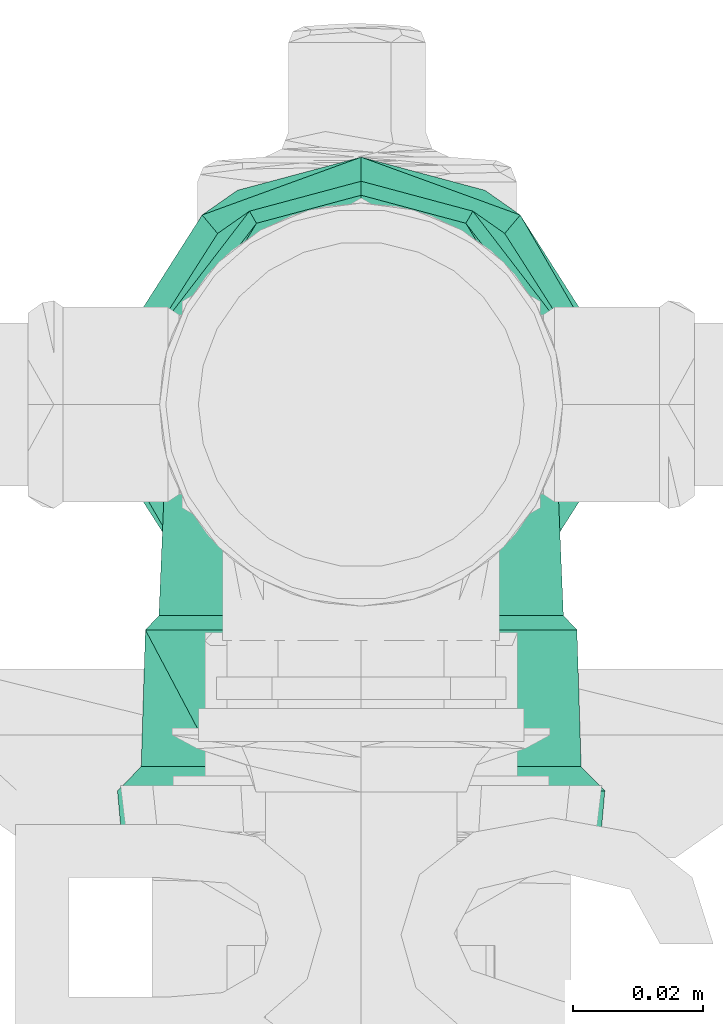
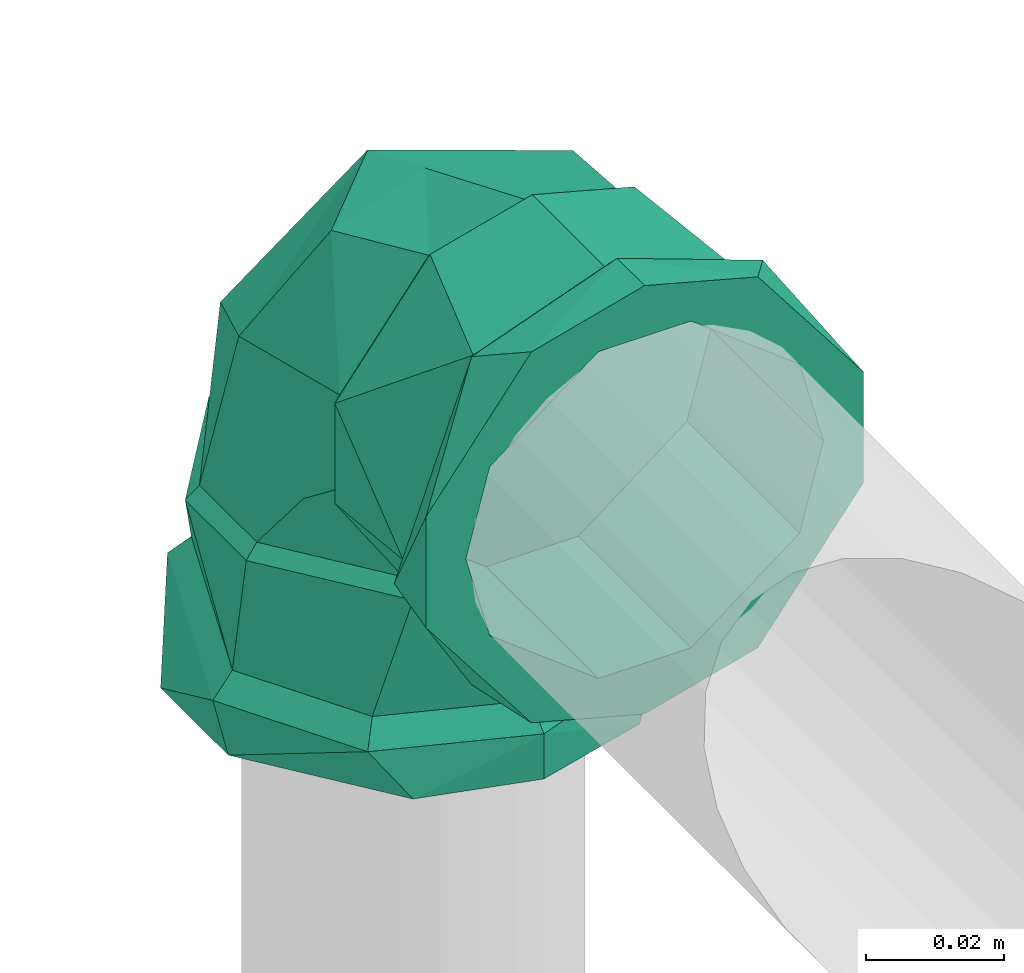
# One storey, part 293 of 589: 1 flow fitting.
"""IFC2X3 building model written with IfcOpenShell, lengths in millimetres."""

from ifc_helpers import new_model, entity, si_unit, converted_unit, derived_unit, direction, frame, origin, place, context, subcontext, project, spatial, faceted_brep, source, transform, mapped, material, type_object, type_shapes, element, save


model = new_model("IFC2X3")

# Units and contexts
model_context = context("Model", 3, precision=0.01, world=origin(), true_north=direction((6.123031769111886e-17, 1.0)))
body_context = subcontext(model_context, "Body", "Model", "MODEL_VIEW")
ifc_project = project(units=[si_unit("LENGTHUNIT", "METRE", prefix="MILLI"), si_unit("AREAUNIT", "SQUARE_METRE"), si_unit("VOLUMEUNIT", "CUBIC_METRE"), converted_unit("PLANEANGLEUNIT", "DEGREE", entity("IfcRatioMeasure", 0.017453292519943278), si_unit("PLANEANGLEUNIT", "RADIAN"), dimensions=[0, 0, 0, 0, 0, 0, 0]), si_unit("MASSUNIT", "GRAM", prefix="KILO"), derived_unit("MASSDENSITYUNIT", [(si_unit("MASSUNIT", "GRAM", prefix="KILO"), 1), (si_unit("LENGTHUNIT", "METRE"), -3)]), derived_unit("IONCONCENTRATIONUNIT", [(si_unit("MASSUNIT", "GRAM", prefix="KILO"), 1), (si_unit("LENGTHUNIT", "METRE"), -3)]), derived_unit("MOMENTOFINERTIAUNIT", [(si_unit("LENGTHUNIT", "METRE"), 4)]), si_unit("TIMEUNIT", "SECOND"), si_unit("FREQUENCYUNIT", "HERTZ"), si_unit("THERMODYNAMICTEMPERATUREUNIT", "DEGREE_CELSIUS"), derived_unit("THERMALTRANSMITTANCEUNIT", [(si_unit("MASSUNIT", "GRAM", prefix="KILO"), 1), (si_unit("THERMODYNAMICTEMPERATUREUNIT", "KELVIN"), -1), (si_unit("TIMEUNIT", "SECOND"), -3)]), derived_unit("THERMALCONDUCTANCEUNIT", [(si_unit("MASSUNIT", "GRAM", prefix="KILO"), 1), (si_unit("THERMODYNAMICTEMPERATUREUNIT", "KELVIN"), -1), (si_unit("TIMEUNIT", "SECOND"), -3), (si_unit("LENGTHUNIT", "METRE"), 1)]), derived_unit("VOLUMETRICFLOWRATEUNIT", [(si_unit("LENGTHUNIT", "METRE"), 3), (si_unit("TIMEUNIT", "SECOND"), -1)]), derived_unit("MASSFLOWRATEUNIT", [(si_unit("MASSUNIT", "GRAM", prefix="KILO"), 1), (si_unit("TIMEUNIT", "SECOND"), -1)]), derived_unit("ROTATIONALFREQUENCYUNIT", [(si_unit("TIMEUNIT", "SECOND"), -1)]), si_unit("ELECTRICCURRENTUNIT", "AMPERE"), si_unit("ELECTRICVOLTAGEUNIT", "VOLT"), si_unit("POWERUNIT", "WATT"), si_unit("FORCEUNIT", "NEWTON", prefix="KILO"), si_unit("ILLUMINANCEUNIT", "LUX"), si_unit("LUMINOUSFLUXUNIT", "LUMEN"), si_unit("LUMINOUSINTENSITYUNIT", "CANDELA"), derived_unit("USERDEFINED", [(si_unit("MASSUNIT", "GRAM", prefix="KILO"), -1), (si_unit("LENGTHUNIT", "METRE"), -2), (si_unit("TIMEUNIT", "SECOND"), 3), (si_unit("LUMINOUSFLUXUNIT", "LUMEN"), 1)]), derived_unit("USERDEFINED", [(si_unit("MASSUNIT", "GRAM", prefix="KILO"), 1), (si_unit("TIMEUNIT", "SECOND"), -3), (si_unit("LENGTHUNIT", "METRE"), 3), (si_unit("ELECTRICCURRENTUNIT", "AMPERE"), -2)]), derived_unit("SOUNDPOWERUNIT", [(si_unit("MASSUNIT", "GRAM", prefix="KILO"), 1), (si_unit("TIMEUNIT", "SECOND"), -3), (si_unit("LENGTHUNIT", "METRE"), 2)]), derived_unit("SOUNDPRESSUREUNIT", [(si_unit("MASSUNIT", "GRAM", prefix="KILO"), 1), (si_unit("LENGTHUNIT", "METRE"), -1), (si_unit("TIMEUNIT", "SECOND"), -2)]), derived_unit("LINEARVELOCITYUNIT", [(si_unit("LENGTHUNIT", "METRE"), 1), (si_unit("TIMEUNIT", "SECOND"), -1)]), si_unit("PRESSUREUNIT", "PASCAL"), derived_unit("USERDEFINED", [(si_unit("MASSUNIT", "GRAM", prefix="KILO"), 1), (si_unit("LENGTHUNIT", "METRE"), -2), (si_unit("TIMEUNIT", "SECOND"), -2)]), derived_unit("LINEARFORCEUNIT", [(si_unit("MASSUNIT", "GRAM", prefix="KILO"), 1), (si_unit("TIMEUNIT", "SECOND"), -2)]), derived_unit("PLANARFORCEUNIT", [(si_unit("MASSUNIT", "GRAM", prefix="KILO"), 1), (si_unit("LENGTHUNIT", "METRE"), -1), (si_unit("TIMEUNIT", "SECOND"), -2)]), derived_unit("SPECIFICHEATCAPACITYUNIT", [(si_unit("THERMODYNAMICTEMPERATUREUNIT", "KELVIN"), -1), (si_unit("LENGTHUNIT", "METRE"), 2), (si_unit("TIMEUNIT", "SECOND"), -2)]), derived_unit("HEATINGVALUEUNIT", [(si_unit("LENGTHUNIT", "METRE"), 2), (si_unit("TIMEUNIT", "SECOND"), -2)]), derived_unit("VAPORPERMEABILITYUNIT", [(si_unit("LENGTHUNIT", "METRE"), -1), (si_unit("TIMEUNIT", "SECOND"), 1)]), derived_unit("DYNAMICVISCOSITYUNIT", [(si_unit("MASSUNIT", "GRAM", prefix="KILO"), 1), (si_unit("TIMEUNIT", "SECOND"), -1), (si_unit("LENGTHUNIT", "METRE"), -1)]), derived_unit("THERMALEXPANSIONCOEFFICIENTUNIT", [(si_unit("THERMODYNAMICTEMPERATUREUNIT", "KELVIN"), -1)]), derived_unit("MODULUSOFELASTICITYUNIT", [(si_unit("MASSUNIT", "GRAM", prefix="KILO"), 1), (si_unit("LENGTHUNIT", "METRE"), -1), (si_unit("TIMEUNIT", "SECOND"), -2)]), derived_unit("ISOTHERMALMOISTURECAPACITYUNIT", [(si_unit("LENGTHUNIT", "METRE"), 3), (si_unit("MASSUNIT", "GRAM", prefix="KILO"), -1)]), derived_unit("MOISTUREDIFFUSIVITYUNIT", [(si_unit("TIMEUNIT", "SECOND"), -1), (si_unit("LENGTHUNIT", "METRE"), 2)])], contexts=[model_context])

# Site, building, storey
site_placement = place(None, origin())
site = spatial("IfcSite", under=ifc_project, at=site_placement, Name="Default", CompositionType="ELEMENT")
building_placement = place(site_placement, origin())
building = spatial("IfcBuilding", under=site, at=building_placement, CompositionType="ELEMENT")
storey_placement = place(building_placement, frame((0.0, 0.0, 100.0)))
storey = spatial("IfcBuildingStorey", under=building, at=storey_placement, Name="TÉRREO", CompositionType="ELEMENT", Elevation=100.0)

# Flow fitting
ifc_material = material(Name="PVC Marrom")
pipe_fitting_type = type_object("IfcPipeFittingType", Name="PVC Marrom Soldável_Joelho 45°_90°_Rodrigo MEP:Joelho", PredefinedType="NOTDEFINED", material=ifc_material)
shared_shape = source(origin(), body_context, "Body", "Brep", [
    faceted_brep([(-29.704671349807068, 34.60000000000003, 17.149999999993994), (-19.29108229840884, 34.600000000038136, 25.14062792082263), (-8.877493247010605, 34.60000000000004, 33.13125584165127), (8.877493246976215, 34.60000000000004, 33.13125584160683), (19.291082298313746, 34.60000000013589, 25.140627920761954), (29.70467134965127, 34.600000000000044, 17.149999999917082), (34.29999999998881, 34.600000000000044, 0.0), (29.7046713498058, 34.600000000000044, -17.150000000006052), (19.29108229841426, 34.599999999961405, -25.140627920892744), (8.877493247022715, 34.60000000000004, -33.13125584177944), (-8.877493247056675, 34.60000000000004, -33.13125584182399), (-19.291082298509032, 34.599999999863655, -25.140627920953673), (-29.704671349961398, 34.60000000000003, -17.150000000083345), (-34.30000000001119, 34.60000000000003, 0.0), (8.321032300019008, 32.400000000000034, 31.054515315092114), (-8.32103230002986, 32.400000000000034, 31.054515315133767), (-18.08187451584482, 32.40000000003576, 23.56475765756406), (-27.84271673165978, 32.40000000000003, 16.07499999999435), (-32.15000000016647, 32.40000000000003, 0.0), (-27.842716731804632, 32.40000000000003, -16.075000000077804), (-18.08187451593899, 32.399999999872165, -23.564757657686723), (-8.32103230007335, 32.400000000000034, -31.054515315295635), (8.32103230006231, 32.400000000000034, -31.054515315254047), (18.081874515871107, 32.399999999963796, -23.56475765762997), (27.8427167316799, 32.40000000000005, -16.07500000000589), (32.14999999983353, 32.40000000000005, 0.0), (27.84271673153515, 32.40000000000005, 16.074999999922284), (18.08187451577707, 32.400000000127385, 23.564757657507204)], [[[0, 1, 2, 3, 4, 5, 6, 7, 8, 9, 10, 11, 12, 13]], [[14, 15, 16, 17, 18, 19, 20, 21, 22, 23, 24, 25, 26, 27]], [[7, 25, 24]], [[9, 8, 7, 24, 23, 22]], [[20, 19, 12, 11, 10, 21]], [[7, 6, 25]], [[22, 21, 10, 9]], [[13, 19, 18]], [[13, 12, 19]], [[0, 18, 17]], [[2, 1, 0, 17, 16, 15]], [[27, 26, 5, 4, 3, 14]], [[0, 13, 18]], [[15, 14, 3, 2]], [[6, 26, 25]], [[6, 5, 26]]]),
    faceted_brep([(-34.599999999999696, -8.877493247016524, 33.13125584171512), (-34.599999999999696, 8.877493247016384, 33.13125584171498), (-34.59999999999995, 19.291082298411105, 25.140627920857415), (-34.599999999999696, 29.704671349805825, 17.14999999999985), (-34.599999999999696, 34.3, 0.0), (-34.599999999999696, 29.704671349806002, -17.149999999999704), (-34.60000000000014, 19.29108229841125, -25.140627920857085), (-34.599999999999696, 8.877493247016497, -33.13125584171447), (-34.599999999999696, -8.877493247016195, -33.131255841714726), (-34.59999999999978, -19.291082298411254, -25.1406279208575), (-34.599999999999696, -29.704671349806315, -17.150000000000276), (-34.599999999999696, -34.3, 0.0), (-34.599999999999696, -29.704671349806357, 17.15000000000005), (-34.59999999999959, -19.291082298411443, 25.14062792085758), (-32.3999999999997, 32.149999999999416, 0.0), (-32.3999999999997, 27.84271673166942, 16.074999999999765), (-32.39999999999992, 18.081874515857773, 23.564757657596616), (-32.3999999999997, 8.321032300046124, 31.054515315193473), (-32.3999999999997, -8.321032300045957, 31.05451531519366), (-32.39999999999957, -18.08187451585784, 23.564757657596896), (-32.3999999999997, -27.84271673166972, 16.075000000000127), (-32.3999999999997, -32.15000000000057, 0.0), (-32.3999999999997, -27.842716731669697, -16.07500000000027), (-32.39999999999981, -18.08187451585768, -23.56475765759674), (-32.3999999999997, -8.321032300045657, -31.054515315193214), (-32.3999999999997, 8.321032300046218, -31.05451531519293), (-32.40000000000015, 18.081874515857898, -23.56475765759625), (-32.3999999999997, 27.842716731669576, -16.074999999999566)], [[[0, 1, 2, 3, 4, 5, 6, 7, 8, 9, 10, 11, 12, 13]], [[14, 15, 16, 17, 18, 19, 20, 21, 22, 23, 24, 25, 26, 27]], [[5, 4, 14, 27]], [[7, 6, 5, 27, 26, 25]], [[23, 22, 10, 9, 8, 24]], [[25, 24, 8, 7]], [[11, 10, 22, 21]], [[12, 11, 21, 20]], [[0, 13, 12, 20, 19, 18]], [[16, 15, 3, 2, 1, 17]], [[18, 17, 1, 0]], [[4, 3, 15, 14]]]),
    faceted_brep([(-67.29999999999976, -9.835123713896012, -36.70518139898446), (-67.29999999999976, 0.0, -30.0), (-67.29999999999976, 9.835123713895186, -36.705181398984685), (-67.29999999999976, -15.0, -25.98076211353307), (-67.29999999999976, -32.90896534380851, -19.0), (-67.29999999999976, -28.977774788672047, -7.764571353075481), (-67.29999999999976, -38.0, 0.0), (-67.29999999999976, -28.97777478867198, 7.764571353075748), (-67.29999999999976, -32.90896534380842, 19.0), (-67.29999999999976, -15.0, 25.98076211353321), (-67.29999999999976, -9.835123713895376, 36.70518139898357), (-67.29999999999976, 0.0, 30.0), (-67.29999999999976, 9.835123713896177, 36.70518139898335), (-67.29999999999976, 15.0, 25.980762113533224), (-67.29999999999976, 32.90896534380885, 19.0), (-67.29999999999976, 28.977774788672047, 7.764571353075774), (-67.29999999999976, 38.0, 0.0), (-67.29999999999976, 28.977774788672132, -7.764571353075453), (-67.29999999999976, 32.90896534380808, -19.0), (-67.29999999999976, 15.0, -25.980762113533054), (-59.29999999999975, 38.0, 0.0), (-59.30000000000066, 29.109098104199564, 24.426633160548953), (-59.30000000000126, 6.596820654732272, 37.42301373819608), (-59.30000000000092, -29.111756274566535, 24.42346508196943), (-59.29999999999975, -38.0, 0.0), (-59.29999999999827, -29.111756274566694, -24.423465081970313), (-59.29999999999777, -6.600893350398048, -37.42229558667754), (-59.29999999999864, 29.109098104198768, -24.426633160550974), (-55.60000000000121, -26.279625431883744, 22.042488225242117), (-55.60000000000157, 5.952366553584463, 33.779569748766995), (-55.59999999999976, -34.3, 0.0), (-55.60000000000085, 26.274095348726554, 22.049079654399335), (-55.59999999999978, 34.299999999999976, 0.0), (-55.59999999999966, 26.27409534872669, -22.04907965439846), (-55.59999999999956, -5.960839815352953, -33.77807556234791), (-55.59999999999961, -26.279625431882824, -22.042488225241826), (-34.59999999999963, -15.0, -25.98076211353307), (-34.59999999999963, -8.877493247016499, -33.13125584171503), (-34.59999999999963, 0.0, -30.0), (-34.59999999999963, -29.704671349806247, -17.149999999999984), (-34.59999999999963, -28.977774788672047, -7.764571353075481), (-34.59999999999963, -34.3, 0.0), (-34.59999999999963, -28.97777478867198, 7.764571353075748), (-34.59999999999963, -29.70467134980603, 17.150000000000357), (-34.59999999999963, -15.0, 25.98076211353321), (-34.59999999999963, -8.877493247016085, 33.13125584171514), (-34.59999999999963, 0.0, 30.0), (-34.59999999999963, 8.877493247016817, 33.131255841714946), (-34.59999999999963, 15.0, 25.980762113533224), (-34.59999999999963, 29.70467134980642, 17.1499999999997), (-34.59999999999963, 28.977774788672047, 7.764571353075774), (-34.59999999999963, 34.300000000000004, 0.0), (-34.59999999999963, 28.977774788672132, -7.764571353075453), (-34.59999999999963, 29.704671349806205, -17.150000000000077), (-34.59999999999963, 15.0, -25.980762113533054), (-34.59999999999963, 8.877493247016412, -33.13125584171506)], [[[0, 1, 2]], [[1, 0, 3]], [[4, 3, 0]], [[3, 4, 5]], [[5, 4, 6]], [[7, 5, 6]], [[7, 6, 8]], [[8, 9, 7]], [[8, 10, 9]], [[9, 10, 11]], [[12, 11, 10]], [[13, 11, 12]], [[13, 12, 14]], [[14, 15, 13]], [[15, 14, 16]], [[15, 16, 17]], [[18, 17, 16]], [[2, 19, 18]], [[17, 18, 19]], [[19, 2, 1]], [[16, 14, 20]], [[14, 21, 20]], [[21, 14, 12]], [[21, 12, 22]], [[23, 10, 8]], [[24, 8, 6]], [[10, 23, 22]], [[23, 8, 24]], [[10, 22, 12]], [[6, 4, 24]], [[4, 25, 24]], [[25, 4, 0]], [[25, 0, 26]], [[27, 2, 18]], [[20, 18, 16]], [[2, 27, 26]], [[27, 18, 20]], [[2, 26, 0]], [[28, 29, 23]], [[30, 28, 24]], [[24, 28, 23]], [[29, 22, 23]], [[31, 32, 21]], [[21, 22, 31]], [[20, 21, 32]], [[31, 22, 29]], [[32, 33, 27]], [[27, 20, 32]], [[26, 27, 33]], [[33, 34, 26]], [[35, 30, 24]], [[35, 25, 34]], [[25, 35, 24]], [[34, 25, 26]], [[36, 37, 38]], [[39, 37, 36]], [[36, 40, 39]], [[40, 41, 39]], [[42, 41, 40]], [[41, 42, 43]], [[44, 43, 42]], [[43, 44, 45]], [[46, 45, 44]], [[47, 45, 46]], [[48, 47, 46]], [[47, 48, 49]], [[50, 49, 48]], [[49, 50, 51]], [[51, 50, 52]], [[51, 52, 53]], [[53, 52, 54]], [[54, 38, 55]], [[55, 53, 54]], [[37, 55, 38]], [[32, 31, 49]], [[32, 49, 51]], [[49, 31, 47]], [[31, 29, 47]], [[45, 29, 28]], [[43, 28, 30]], [[28, 43, 45]], [[43, 30, 41]], [[29, 45, 47]], [[30, 35, 39]], [[30, 39, 41]], [[39, 35, 37]], [[35, 34, 37]], [[55, 34, 33]], [[53, 33, 32]], [[33, 53, 55]], [[53, 32, 51]], [[34, 55, 37]], [[9, 11, 46, 44]], [[7, 9, 44, 42]], [[42, 40, 5, 7]], [[3, 5, 40, 36]], [[1, 3, 36, 38]], [[19, 1, 38, 54]], [[17, 19, 54, 52]], [[52, 50, 15, 17]], [[13, 15, 50, 48]], [[11, 13, 48, 46]]]),
    faceted_brep([(-32.399999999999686, -8.32103230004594, -31.054515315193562), (-32.39999999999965, -27.84271673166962, -16.075000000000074), (-32.39999999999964, -32.149999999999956, 0.0), (-32.39999999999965, -27.842716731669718, 16.074999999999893), (-32.399999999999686, -8.321032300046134, 31.054515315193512), (-32.39999999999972, 8.321032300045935, 31.054515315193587), (-32.39999999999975, 27.842716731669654, 16.075000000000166), (-32.399999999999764, 32.15000000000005, 0.0), (-32.39999999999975, 27.842716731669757, -16.074999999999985), (-32.39999999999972, 8.32103230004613, -31.054515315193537), (-8.321032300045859, 32.39999999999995, -31.054515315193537), (-27.842716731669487, 32.40000000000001, -16.074999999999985), (-32.14999999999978, 32.40000000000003, 0.0), (-27.842716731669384, 32.40000000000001, 16.075000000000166), (-8.321032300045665, 32.39999999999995, 31.054515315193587), (8.321032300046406, 32.3999999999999, 31.054515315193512), (27.842716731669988, 32.399999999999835, 16.074999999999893), (32.150000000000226, 32.39999999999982, 0.0), (27.84271673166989, 32.399999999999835, -16.075000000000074), (8.32103230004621, 32.3999999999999, -31.054515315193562), (-0.8536947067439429, 0.8536917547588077, 29.73987024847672), (-11.305135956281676, -20.93489151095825, 20.269855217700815), (-3.4548297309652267, -20.160517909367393, 0.0), (13.243742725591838, -13.243742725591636, 0.0), (20.93489020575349, 11.305132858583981, 20.26985530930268), (-32.22322330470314, 32.2232233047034, 0.0), (-18.88266617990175, 18.88266585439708, 29.27743828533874), (20.160517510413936, 3.4548287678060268, 0.0), (-11.305135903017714, -20.9348914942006, -20.269855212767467), (-18.88266604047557, 18.882665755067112, -29.277438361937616), (-0.8536944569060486, 0.853691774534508, -29.739870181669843), (20.93489014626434, 11.305132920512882, -20.269855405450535)], [[[0, 1, 2, 3, 4, 5, 6, 7, 8, 9]], [[10, 11, 12, 13, 14, 15, 16, 17, 18, 19]], [[4, 20, 5]], [[21, 3, 22]], [[23, 21, 22]], [[15, 20, 24]], [[21, 4, 3]], [[25, 6, 13]], [[23, 24, 20]], [[25, 7, 6]], [[6, 5, 26]], [[3, 2, 22]], [[20, 21, 23]], [[27, 17, 16]], [[20, 26, 5]], [[20, 4, 21]], [[24, 27, 16]], [[6, 26, 13]], [[25, 13, 12]], [[24, 16, 15]], [[20, 14, 26]], [[14, 13, 26]], [[24, 23, 27]], [[14, 20, 15]], [[28, 23, 22]], [[28, 1, 0]], [[29, 8, 11]], [[29, 30, 9]], [[2, 1, 22]], [[30, 19, 31]], [[1, 28, 22]], [[30, 0, 9]], [[23, 28, 30]], [[30, 29, 10]], [[8, 7, 25]], [[25, 12, 11]], [[23, 31, 27]], [[0, 30, 28]], [[11, 10, 29]], [[30, 10, 19]], [[18, 17, 27]], [[23, 30, 31]], [[8, 29, 9]], [[31, 19, 18]], [[18, 27, 31]], [[11, 8, 25]]]),
    faceted_brep([(-15.0, 34.60000000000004, -25.98076211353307), (-8.877493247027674, 34.60000000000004, -33.13125584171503), (0.0, 34.600000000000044, -30.0), (-29.704671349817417, 34.60000000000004, -17.149999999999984), (-28.977774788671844, 34.60000000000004, -7.764571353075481), (-34.30000000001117, 34.60000000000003, 0.0), (-28.977774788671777, 34.60000000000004, 7.764571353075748), (-29.704671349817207, 34.60000000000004, 17.150000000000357), (-15.0, 34.60000000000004, 25.980762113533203), (-8.87749324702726, 34.60000000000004, 33.13125584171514), (0.0, 34.600000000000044, 30.0), (8.877493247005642, 34.60000000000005, 33.131255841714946), (15.0, 34.60000000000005, 25.980762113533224), (29.704671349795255, 34.60000000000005, 17.149999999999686), (28.97777478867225, 34.60000000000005, 7.764571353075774), (34.29999999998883, 34.60000000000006, 0.0), (28.977774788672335, 34.60000000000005, -7.764571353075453), (29.704671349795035, 34.60000000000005, -17.150000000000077), (15.0, 34.60000000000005, -25.980762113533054), (8.877493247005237, 34.60000000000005, -33.13125584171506), (34.29999999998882, 55.600000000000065, 0.0), (26.2740953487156, 55.60000000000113, 22.049079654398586), (-5.960839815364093, 55.60000000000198, 33.77807556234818), (-26.279625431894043, 55.60000000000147, 22.042488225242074), (-34.30000000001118, 55.600000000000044, 0.0), (-26.279625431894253, 55.6000000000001, -22.04248822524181), (5.952366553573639, 55.599999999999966, -33.779569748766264), (26.27409534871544, 55.59999999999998, -22.049079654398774), (-29.10909810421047, 59.3000000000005, 24.426633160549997), (-38.0, 59.30000000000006, 0.0), (-6.59682065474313, 59.300000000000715, 37.42301373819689), (29.11175627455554, 59.30000000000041, 24.423465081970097), (38.0, 59.29999999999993, 0.0), (29.11175627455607, 59.30000000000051, -24.42346508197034), (6.600893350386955, 59.30000000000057, -37.42229558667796), (-29.109098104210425, 59.30000000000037, -24.426633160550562), (-9.835123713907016, 67.30000000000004, -36.705181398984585), (-15.0, 67.30000000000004, -25.98076211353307), (0.0, 67.30000000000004, -30.0), (-32.90896534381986, 67.30000000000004, -19.0), (9.835123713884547, 67.30000000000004, -36.705181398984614), (-28.97777478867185, 67.30000000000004, -7.764571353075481), (-38.0, 67.30000000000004, 0.0), (-28.977774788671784, 67.30000000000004, 7.764571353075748), (-32.90896534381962, 67.30000000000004, 19.0), (-15.0, 67.30000000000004, 25.98076211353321), (-9.835123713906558, 67.30000000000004, 36.705181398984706), (0.0, 67.30000000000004, 30.0), (9.835123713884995, 67.30000000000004, 36.705181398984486), (15.0, 67.30000000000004, 25.980762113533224), (32.90896534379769, 67.30000000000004, 19.0), (28.97777478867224, 67.30000000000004, 7.764571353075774), (38.0, 67.30000000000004, 0.0), (28.977774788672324, 67.30000000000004, -7.764571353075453), (32.90896534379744, 67.30000000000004, -19.0), (15.0, 67.30000000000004, -25.980762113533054)], [[[0, 1, 2]], [[3, 1, 0]], [[0, 4, 3]], [[4, 5, 3]], [[6, 5, 4]], [[5, 6, 7]], [[8, 7, 6]], [[7, 8, 9]], [[10, 9, 8]], [[11, 9, 10]], [[12, 11, 10]], [[11, 12, 13]], [[14, 13, 12]], [[13, 14, 15]], [[15, 14, 16]], [[15, 16, 17]], [[17, 16, 18]], [[18, 2, 19]], [[19, 17, 18]], [[1, 19, 2]], [[20, 21, 13]], [[20, 13, 15]], [[13, 21, 11]], [[21, 22, 11]], [[9, 22, 23]], [[7, 23, 24]], [[23, 7, 9]], [[7, 24, 5]], [[22, 9, 11]], [[24, 25, 3]], [[24, 3, 5]], [[3, 25, 1]], [[25, 26, 1]], [[19, 26, 27]], [[17, 27, 20]], [[27, 17, 19]], [[17, 20, 15]], [[26, 19, 1]], [[23, 22, 28]], [[24, 23, 29]], [[29, 23, 28]], [[22, 30, 28]], [[21, 20, 31]], [[31, 30, 21]], [[32, 31, 20]], [[21, 30, 22]], [[20, 27, 33]], [[33, 32, 20]], [[34, 33, 27]], [[27, 26, 34]], [[25, 24, 29]], [[25, 35, 26]], [[35, 25, 29]], [[26, 35, 34]], [[36, 37, 38]], [[37, 36, 39]], [[38, 40, 36]], [[39, 41, 37]], [[39, 42, 41]], [[41, 42, 43]], [[44, 43, 42]], [[43, 44, 45]], [[46, 45, 44]], [[45, 46, 47]], [[47, 46, 48]], [[48, 49, 47]], [[50, 49, 48]], [[49, 50, 51]], [[52, 51, 50]], [[52, 53, 51]], [[54, 53, 52]], [[55, 53, 54]], [[55, 54, 40]], [[40, 38, 55]], [[52, 50, 32]], [[50, 31, 32]], [[31, 50, 48]], [[31, 48, 30]], [[28, 46, 44]], [[29, 44, 42]], [[46, 28, 30]], [[28, 44, 29]], [[46, 30, 48]], [[42, 39, 29]], [[39, 35, 29]], [[35, 39, 36]], [[35, 36, 34]], [[33, 40, 54]], [[32, 54, 52]], [[40, 33, 34]], [[33, 54, 32]], [[40, 34, 36]], [[45, 47, 10, 8]], [[43, 45, 8, 6]], [[6, 4, 41, 43]], [[37, 41, 4, 0]], [[38, 37, 0, 2]], [[55, 38, 2, 18]], [[53, 55, 18, 16]], [[16, 14, 51, 53]], [[49, 51, 14, 12]], [[47, 49, 12, 10]]]),
])
type_shapes(pipe_fitting_type, [shared_shape])
flow_fitting_placement = place(storey_placement, frame((6054.818506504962, 7535.9247526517, 2970.0), z_axis=(-1.0, 0.0, 0.0), x_axis=(0.0, 1.0, 0.0)))
element("IfcFlowFitting", 1, at=flow_fitting_placement, inside=storey, type_object=pipe_fitting_type, material=ifc_material, Name="PVC Marrom Soldável_Joelho 45°_90°_Rodrigo MEP:Joelho", ObjectType="PVC Marrom Soldável_Joelho 45°_90°_Rodrigo MEP:Joelho", context=body_context, shape_type="MappedRepresentation", body=[
    mapped(shared_shape, transform((0.0, 0.0, 0.0), scale=1.0)),
])

save(model, "model.ifc")
